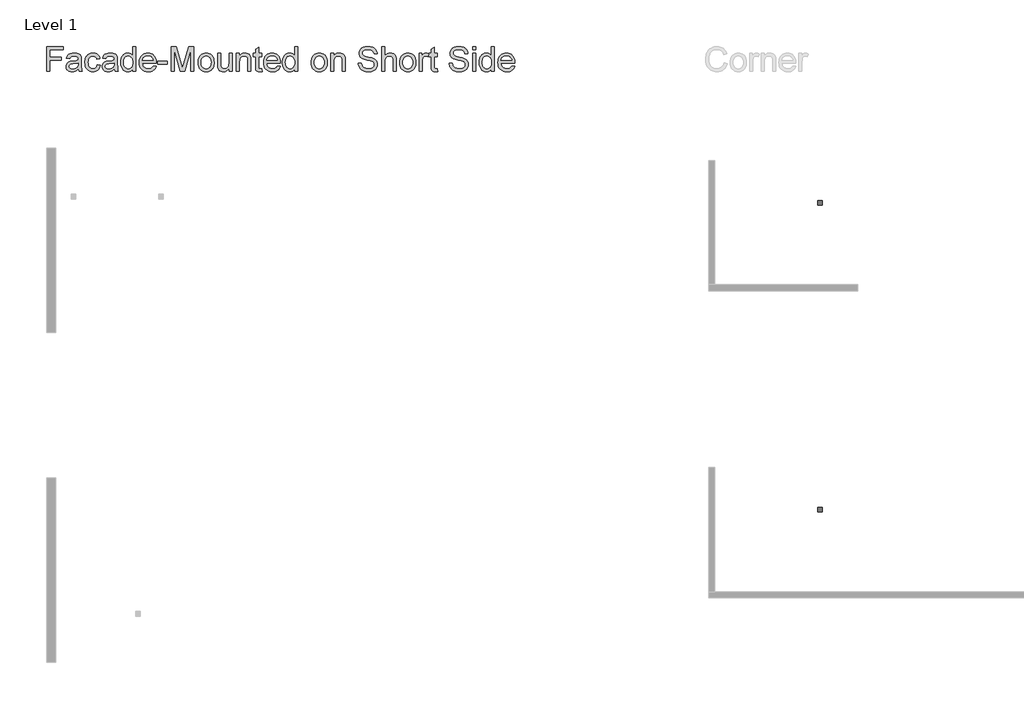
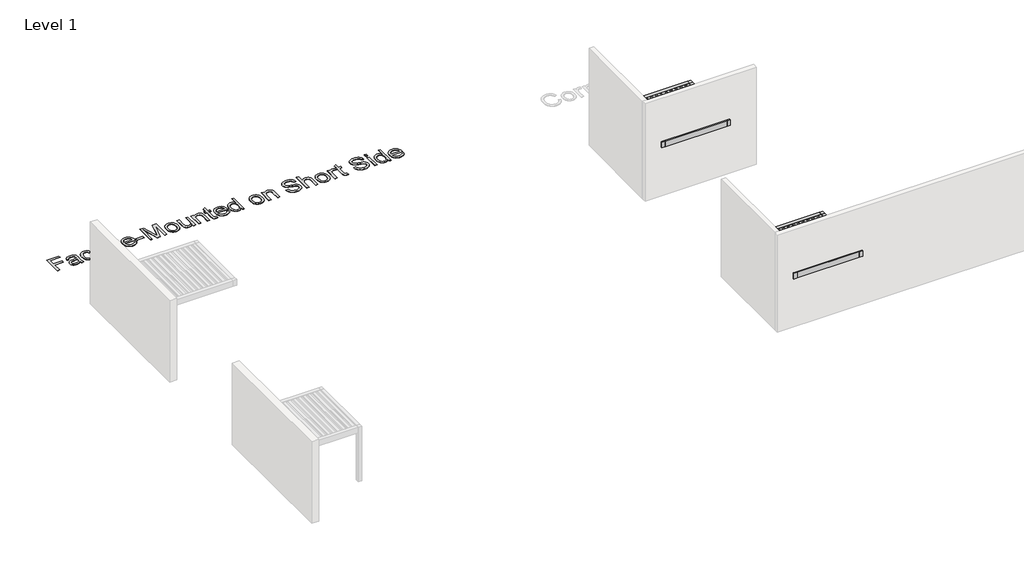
# One storey, part 13 of 69: 3 proxies.
"""IFC4 building model written with IfcOpenShell, lengths in millimetres."""

from ifc_helpers import new_model, si_unit, origin, origin_with_axes, place, context, project, spatial, polyline, outline, extrude, transform, mapped, element, save
from components import generic_models_1957e080

model = new_model("IFC4")

# Units and contexts
model_context = context("Model", 3, world=origin())
ifc_project = project(units=[si_unit("LENGTHUNIT", "METRE", prefix="MILLI")], contexts=[model_context])

# Site, building, storey
site = spatial("IfcSite", under=ifc_project)
building = spatial("IfcBuilding", under=site)
storey = spatial("IfcBuildingStorey", under=building, Name="Level 1", Elevation=0.0)

# Proxies
placement = place(None, origin())
generic_models_shape = generic_models_1957e080(model_context)
element("IfcBuildingElementProxy", 1, Name="Renson_Camargue_Facade-Mounted_Patio covers : Renson_Camargue_Facade-Mounted_Patio covers", ObjectType="Renson_Camargue_Facade-Mounted_Patio covers : Renson_Camargue_Facade-Mounted_Patio covers", at=placement, inside=storey, context=model_context, shape_type="MappedRepresentation", body=[
    mapped(generic_models_shape, transform((36325.3957203, -10875.9863343, 0.0), x_axis=(1.0, 0.0, 0.0), y_axis=(0.0, 1.0, 0.0), z_axis=(0.0, 0.0, 1.0))),
])
element("IfcBuildingElementProxy", 2, Name="Renson_Camargue_Facade-Mounted_Patio covers : Renson_Camargue_Facade-Mounted_Patio covers", ObjectType="Renson_Camargue_Facade-Mounted_Patio covers : Renson_Camargue_Facade-Mounted_Patio covers", at=placement, inside=storey, context=model_context, shape_type="MappedRepresentation", body=[
    mapped(generic_models_shape, transform((36325.3957203, -20875.9863343, 0.0), x_axis=(1.0, 0.0, 0.0), y_axis=(0.0, 1.0, 0.0), z_axis=(0.0, 0.0, 1.0))),
])
element("IfcBuildingElementProxy", 3, Name="800mm Arial", ObjectType="800mm Arial", at=placement, inside=storey, context=model_context, shape_type="SweptSolid", body=[
    extrude(outline(polyline([(12558.1433657, -5171.4138599), (12558.1433657, -4372.0251615), (13095.2326474, -4372.0251615), (13095.2326474, -4471.9487488), (12658.066953, -4471.9487488), (12658.066953, -4709.2672686), (13032.7804053, -4709.2672686), (13032.7804053, -4809.1908559), (12658.066953, -4809.1908559), (12658.066953, -5171.4138599), (12558.1433657, -5171.4138599)])), origin_with_axes(), (0.0, 0.0, 1.0), 5.0),
    extrude(outline(polyline([(13594.8505839, -5096.4711694), (13547.1087723, -5137.4066624), (13522.7072664, -5152.5684079), (13497.952027, -5164.1928194), (13446.2581595, -5178.9764361), (13390.9049809, -5183.9043083), (13346.4138573, -5180.9402663), (13307.3995025, -5172.0481404), (13273.8619167, -5157.2279307), (13245.8010997, -5136.479637), (13223.6439713, -5111.1206113), (13207.817451, -5082.4682057), (13198.3215388, -5050.5224202), (13195.1562347, -5015.2832547), (13199.9377345, -4973.8598535), (13214.2822338, -4936.2421359), (13236.408868, -4904.0401986), (13264.5367724, -4878.8641385), (13297.5925489, -4859.835721), (13334.5027998, -4846.0767114), (13420.9601224, -4831.0491406), (13523.1280871, -4815.2409169), (13594.2650941, -4796.7004075), (13594.8505839, -4774.4517963), (13593.1307077, -4750.2271571), (13587.9710791, -4729.8569922), (13579.3716981, -4713.3413016), (13567.3325647, -4700.6800854), (13546.5232825, -4688.0432645), (13521.1764546, -4679.0169639), (13491.2920809, -4673.6011835), (13456.8701616, -4671.7959234), (13397.3453684, -4676.6018186), (13374.3161041, -4682.6091876), (13355.7755947, -4691.0195042), (13340.540663, -4702.4914443), (13327.4281317, -4717.6836841), (13316.4380009, -4736.5962234), (13307.5702704, -4759.2290623), (13207.6466831, -4746.7386139), (13224.9918175, -4692.0929021), (13236.8662819, -4669.1612194), (13250.8753444, -4649.1569857), (13267.6227913, -4631.6776765), (13287.7124091, -4616.3207678), (13311.1441975, -4603.0862594), (13337.9181568, -4591.9741515), (13399.3213963, -4576.89779), (13469.7509365, -4571.8723361), (13537.3018186, -4576.3123002), (13590.8497371, -4589.6321924), (13631.2241358, -4609.6608216), (13659.2544585, -4634.2269965), (13677.8437587, -4664.5992783), (13689.8950897, -4702.0462281), (13693.5544008, -4736.5901245), (13694.7741712, -4789.479367), (13694.7741712, -4913.7983614), (13696.0427323, -5022.0895733), (13699.8484158, -5087.396078), (13707.3622012, -5130.307599), (13719.755068, -5171.4138599), (13619.8314807, -5171.4138599), (13603.8280937, -5136.6748002), (13594.8505839, -5096.4711694)]), holes=[polyline([(13594.8505839, -4896.6239948), (13527.7144237, -4913.2616624), (13433.6457341, -4927.2646261), (13381.8054941, -4934.9247839), (13347.6763196, -4943.4631764), (13325.3057313, -4954.5386912), (13308.7412499, -4969.810216), (13298.495179, -4988.1067713), (13295.079822, -5008.2573775), (13296.9399718, -5023.7850541), (13302.5204211, -5037.9709833), (13311.8211701, -5050.8151651), (13324.8422186, -5062.3175995), (13341.4615896, -5071.7952152), (13361.5573062, -5078.5649406), (13412.1777758, -5083.980721), (13465.8476714, -5078.0038463), (13490.34066, -5070.5327528), (13513.2723427, -5060.0732221), (13551.7195042, -5033.6529962), (13578.4568703, -5002.2073165), (13590.3130382, -4969.810216), (13594.2650941, -4924.922667), (13594.8505839, -4896.6239948)])]), origin_with_axes(), (0.0, 0.0, 1.0), 5.0),
    extrude(outline(polyline([(14206.882556, -4959.0762369), (14306.8061433, -4971.5666853), (14295.9379895, -5018.7169083), (14278.9465885, -5060.4391532), (14255.8319403, -5096.73342), (14226.5940449, -5127.5997088), (14192.4648705, -5152.2329711), (14154.6763849, -5169.8281584), (14113.2285884, -5180.3852708), (14068.1214807, -5183.9043083), (14012.0791319, -5178.9947326), (13961.8306922, -5164.2660056), (13917.3761617, -5139.7181272), (13878.7155403, -5105.3510976), (13847.4223319, -5061.8113948), (13825.0700402, -5009.7454973), (13811.6586652, -4949.153405), (13807.1882069, -4880.035118), (13809.0971475, -4834.0924677), (13814.8239693, -4791.1138593), (13824.3686723, -4751.0992929), (13837.7312565, -4714.0487684), (13855.0032047, -4680.7063458), (13876.2759996, -4651.816085), (13901.5496413, -4627.377986), (13930.8241298, -4607.3920488), (13962.7760142, -4591.8521745), (13996.0818437, -4580.7522643), (14030.7416183, -4574.0923181), (14066.7553379, -4571.8723361), (14111.0878914, -4574.921762), (14151.1878417, -4584.0700396), (14187.055189, -4599.317169), (14218.689933, -4620.6631502), (14245.5553751, -4647.620075), (14267.114816, -4679.7000353), (14283.368256, -4716.903031), (14294.3156949, -4759.2290623), (14194.3921076, -4771.7195107), (14186.5916762, -4748.379205), (14176.2663202, -4728.1249183), (14163.4160395, -4710.9566506), (14148.0408342, -4696.8744019), (14130.5310308, -4685.9025675), (14111.2769558, -4678.065543), (14090.2786092, -4673.3633283), (14067.5359909, -4671.7959234), (14033.5836832, -4674.8819424), (14002.9613485, -4684.1399994), (13975.6689868, -4699.5700943), (13951.7065982, -4721.1722273), (13932.1963715, -4749.4465041), (13918.2604952, -4784.8930305), (13909.8989694, -4827.5118066), (13907.1117942, -4877.3028324), (13909.8379809, -4927.844017), (13918.0165411, -4970.9568001), (13931.6474748, -5006.6411818), (13950.730782, -5034.897162), (13974.2174601, -5056.3712191), (14001.0585067, -5071.7098312), (14031.2539218, -5080.9129985), (14064.8037054, -5083.980721), (14091.8399152, -5082.0656815), (14116.5463637, -5076.3205632), (14138.9230508, -5066.7453659), (14158.9699766, -5053.3400897), (14176.1260466, -5035.9583622), (14189.8301665, -5014.4538109), (14200.0823363, -4988.8264358), (14206.882556, -4959.0762369)])), origin_with_axes(), (0.0, 0.0, 1.0), 5.0),
    extrude(outline(polyline([(14768.9527346, -5096.4711694), (14721.210923, -5137.4066624), (14696.809417, -5152.5684079), (14672.0541777, -5164.1928194), (14620.3603102, -5178.9764361), (14565.0071316, -5183.9043083), (14520.516008, -5180.9402663), (14481.5016532, -5172.0481404), (14447.9640674, -5157.2279307), (14419.9032504, -5136.479637), (14397.746122, -5111.1206113), (14381.9196016, -5082.4682057), (14372.4236894, -5050.5224202), (14369.2583854, -5015.2832547), (14374.0398852, -4973.8598535), (14388.3843845, -4936.2421359), (14410.5110187, -4904.0401986), (14438.638923, -4878.8641385), (14471.6946996, -4859.835721), (14508.6049505, -4846.0767114), (14595.0622731, -4831.0491406), (14697.2302378, -4815.2409169), (14768.3672448, -4796.7004075), (14768.9527346, -4774.4517963), (14767.2328584, -4750.2271571), (14762.0732298, -4729.8569922), (14753.4738488, -4713.3413016), (14741.4347154, -4700.6800854), (14720.6254332, -4688.0432645), (14695.2786053, -4679.0169639), (14665.3942316, -4673.6011835), (14630.9723123, -4671.7959234), (14571.447519, -4676.6018186), (14548.4182548, -4682.6091876), (14529.8777454, -4691.0195042), (14514.6428137, -4702.4914443), (14501.5302824, -4717.6836841), (14490.5401516, -4736.5962234), (14481.6724211, -4759.2290623), (14381.7488338, -4746.7386139), (14399.0939682, -4692.0929021), (14410.9684326, -4669.1612194), (14424.9774951, -4649.1569857), (14441.724942, -4631.6776765), (14461.8145597, -4616.3207678), (14485.2463482, -4603.0862594), (14512.0203075, -4591.9741515), (14573.423547, -4576.89779), (14643.8530872, -4571.8723361), (14711.4039693, -4576.3123002), (14764.9518878, -4589.6321924), (14805.3262865, -4609.6608216), (14833.3566092, -4634.2269965), (14851.9459094, -4664.5992783), (14863.9972404, -4702.0462281), (14867.6565515, -4736.5901245), (14868.8763218, -4789.479367), (14868.8763218, -4913.7983614), (14870.144883, -5022.0895733), (14873.9505665, -5087.396078), (14881.4643519, -5130.307599), (14893.8572187, -5171.4138599), (14793.9336314, -5171.4138599), (14777.9302444, -5136.6748002), (14768.9527346, -5096.4711694)]), holes=[polyline([(14768.9527346, -4896.6239948), (14701.8165743, -4913.2616624), (14607.7478847, -4927.2646261), (14555.9076448, -4934.9247839), (14521.7784703, -4943.4631764), (14499.407882, -4954.5386912), (14482.8434006, -4969.810216), (14472.5973297, -4988.1067713), (14469.1819727, -5008.2573775), (14471.0421225, -5023.7850541), (14476.6225718, -5037.9709833), (14485.9233208, -5050.8151651), (14498.9443693, -5062.3175995), (14515.5637403, -5071.7952152), (14535.6594569, -5078.5649406), (14586.2799265, -5083.980721), (14639.9498221, -5078.0038463), (14664.4428107, -5070.5327528), (14687.3744934, -5060.0732221), (14725.8216549, -5033.6529962), (14752.559021, -5002.2073165), (14764.4151888, -4969.810216), (14768.3672448, -4924.922667), (14768.9527346, -4896.6239948)])]), origin_with_axes(), (0.0, 0.0, 1.0), 5.0),
    extrude(outline(polyline([(15368.4942583, -5171.4138599), (15368.4942583, -5077.150007), (15338.597687, -5123.8550138), (15321.2799974, -5142.2034093), (15302.3827052, -5157.215733), (15281.9058104, -5168.8919847), (15259.849313, -5177.2321644), (15236.213213, -5182.2362723), (15210.9975104, -5183.9043083), (15178.01492, -5181.489163), (15146.3984725, -5174.2437271), (15116.1481677, -5162.1680006), (15087.2640058, -5145.2619835), (15060.6486167, -5124.0318805), (15037.2046305, -5098.9838963), (15016.9320473, -5070.1180309), (14999.8308669, -5037.4342843), (14986.2548229, -5001.5547394), (14976.5576486, -4963.101479), (14970.739344, -4922.0745032), (14968.7999091, -4878.473812), (14970.5868727, -4835.6720703), (14975.9477634, -4794.8951474), (14984.8825812, -4756.1430433), (14997.3913262, -4719.415758), (15013.4678995, -4685.7866893), (15033.1062021, -4656.3292353), (15056.3062342, -4631.0433959), (15083.0679958, -4609.9291711), (15112.4461647, -4593.2793058), (15143.4954191, -4581.3865449), (15176.2157588, -4574.2508883), (15210.6071839, -4571.8723361), (15235.7588485, -4573.5739158), (15259.4955796, -4578.6786547), (15281.817377, -4587.1865529), (15302.7242409, -4599.0976104), (15339.3661423, -4630.3969176), (15368.4942583, -4669.8442908), (15368.4942583, -4372.0251615), (15468.4178456, -4372.0251615), (15468.4178456, -5171.4138599), (15368.4942583, -5171.4138599)]), holes=[polyline([(15068.7234964, -4878.0834854), (15071.5411659, -4926.5388627), (15079.9941745, -4968.4684686), (15094.0825221, -5003.8723031), (15113.8062087, -5032.7503662), (15137.3599742, -5055.1636464), (15162.9385585, -5071.1731323), (15190.5419616, -5080.7788238), (15220.1701834, -5083.980721), (15249.9386789, -5080.9251962), (15277.377413, -5071.758622), (15302.4863857, -5056.4809984), (15325.265597, -5035.0923252), (15344.1781363, -5007.4218348), (15357.687093, -4973.2987592), (15365.792467, -4932.7230984), (15368.4942583, -4885.6948524), (15365.7436762, -4834.1351596), (15357.4919297, -4789.9184844), (15343.739019, -4753.0448266), (15324.484944, -4723.5141864), (15301.2056268, -4700.8874463), (15275.3769896, -4684.7254891), (15246.9990323, -4675.0283148), (15216.071755, -4671.7959234), (15185.8580434, -4674.9002389), (15158.2546403, -4684.2131856), (15133.2615458, -4699.7347633), (15110.8787598, -4721.4649722), (15092.4358321, -4749.8795225), (15079.2623123, -4785.4541249), (15071.3582004, -4828.1887792), (15068.7234964, -4878.0834854)])]), origin_with_axes(), (0.0, 0.0, 1.0), 5.0),
    extrude(outline(polyline([(16029.3170446, -4996.5475821), (16127.2889993, -5009.0380305), (16112.2675274, -5048.2780428), (16091.9888453, -5082.8585323), (16066.452953, -5112.779499), (16035.6598504, -5138.040943), (15999.9266779, -5158.1061653), (15959.5705758, -5172.438467), (15914.5915441, -5181.0378479), (15864.9895827, -5183.9043083), (15802.9886556, -5178.9581395), (15747.7452564, -5164.1196332), (15699.2593849, -5139.3887893), (15657.5310411, -5104.7656078), (15623.9751587, -5061.2137074), (15600.0066713, -5009.6967065), (15585.6255788, -4950.2146053), (15580.8318813, -4882.7674036), (15585.6743696, -4813.0331325), (15600.2018345, -4751.5689045), (15624.414276, -4698.3747194), (15640.152363, -4674.878893), (15658.3116941, -4653.4505773), (15699.9302585, -4617.7600968), (15747.306139, -4592.2668964), (15800.4393356, -4576.9709762), (15859.3298482, -4571.8723361), (15916.323618, -4576.9587785), (15967.8650142, -4592.2181056), (16013.954037, -4617.6503174), (16054.5906863, -4653.255414), (16087.762341, -4698.0819745), (16111.4563801, -4751.178578), (16125.6728036, -4812.5452244), (16130.4116114, -4882.1819138), (16129.8261216, -4909.1144432), (15680.7554686, -4909.1144432), (15686.5432789, -4948.9887361), (15698.0518122, -4983.9107612), (15715.2810684, -5013.8805188), (15738.2310476, -5038.8980087), (15765.6331886, -5058.6216954), (15796.2189302, -5072.7100429), (15829.9882724, -5081.1630515), (15866.9412152, -5083.980721), (15920.1232026, -5078.7601039), (15964.91317, -5063.0982525), (15984.1611461, -5051.10791), (16001.3111173, -5036.0193507), (16016.3630834, -5017.8325748), (16029.3170446, -4996.5475821)]), holes=[polyline([(15680.7554686, -4809.1908559), (16030.4880241, -4809.1908559), (16025.3527909, -4780.9165792), (16016.9729686, -4756.3991951), (16005.3485572, -4735.6387037), (15990.4795566, -4718.6351049), (15963.2298869, -4698.142963), (15932.2233245, -4683.5057188), (15897.4598695, -4674.7233722), (15858.9395217, -4671.7959234), (15823.8040367, -4674.1317836), (15791.5838028, -4681.1393643), (15762.2788201, -4692.8186654), (15735.8890885, -4709.169687), (15713.7441578, -4729.4361714), (15697.1735775, -4752.861861), (15686.1773478, -4779.4467559), (15680.7554686, -4809.1908559)])]), origin_with_axes(), (0.0, 0.0, 1.0), 5.0),
    extrude(outline(polyline([(16180.3734051, -4934.09534), (16180.3734051, -4834.1717528), (16492.6346154, -4834.1717528), (16492.6346154, -4934.09534), (16180.3734051, -4934.09534)])), origin_with_axes(), (0.0, 0.0, 1.0), 5.0),
    extrude(outline(polyline([(16617.5390995, -5171.4138599), (16617.5390995, -4372.0251615), (16789.4779284, -4372.0251615), (16953.0247373, -4935.4614828), (16986.0073276, -5053.1449265), (17021.7222035, -4925.70332), (17182.5367268, -4372.0251615), (17354.4755558, -4372.0251615), (17354.4755558, -5171.4138599), (17254.5519685, -5171.4138599), (17254.5519685, -4471.9487488), (17053.7289776, -5171.4138599), (16918.2856776, -5171.4138599), (16717.4626868, -4471.9487488), (16717.4626868, -5171.4138599), (16617.5390995, -5171.4138599)])), origin_with_axes(), (0.0, 0.0, 1.0), 5.0),
    extrude(outline(polyline([(17491.8704883, -4877.8883222), (17497.2740709, -4801.8600361), (17504.0285493, -4767.7888007), (17513.4848189, -4736.3461705), (17525.6428799, -4707.5321453), (17540.5027322, -4681.3467253), (17558.0643759, -4657.7899103), (17578.3278109, -4636.8617005), (17616.4090413, -4608.4288536), (17658.4423276, -4588.1196772), (17704.4276699, -4575.9341714), (17754.3650682, -4571.8723361), (17809.4925893, -4576.8185049), (17859.3385047, -4591.6570112), (17903.9028146, -4616.3878551), (17943.1855188, -4651.0110366), (17975.2471825, -4694.3555761), (17998.1483709, -4745.250494), (18011.8890839, -4803.6957905), (18016.4693216, -4869.6914654), (18014.4445028, -4923.1783954), (18008.3700464, -4970.6396598), (17998.2459525, -5012.0752587), (17984.072221, -5047.485192), (17966.0257186, -5078.0709336), (17944.2833121, -5105.0339573), (17918.8450014, -5128.374263), (17889.7107865, -5148.0918507), (17858.0150539, -5163.7598009), (17824.89219, -5174.9511939), (17790.3421947, -5181.6660297), (17754.3650682, -5183.9043083), (17698.4324987, -5178.9764361), (17648.1230705, -5164.1928194), (17603.4367836, -5139.5534583), (17564.373638, -5105.0583527), (17532.65351, -5061.2929924), (17509.9962757, -5008.8428673), (17496.4019351, -4947.7079772), (17491.8704883, -4877.8883222)]), holes=[polyline([(17591.7940756, -4877.6931589), (17594.6849313, -4926.1607339), (17603.3574985, -4968.1269329), (17617.8117772, -5003.5917559), (17638.0477673, -5032.5552029), (17662.6627331, -5055.0538671), (17690.2539384, -5071.1243415), (17720.8213835, -5080.7666261), (17754.3650682, -5083.980721), (17787.737985, -5080.7483295), (17818.183453, -5071.0511552), (17845.7014722, -5054.8891981), (17870.2920425, -5032.262458), (17890.5280327, -5003.012365), (17904.9823113, -4966.9803488), (17913.6548785, -4924.1664094), (17916.5457343, -4874.5705468), (17913.636582, -4827.6398825), (17904.9091251, -4786.7714768), (17890.3633637, -4751.9653298), (17869.9992976, -4723.2214415), (17845.3172445, -4700.7227773), (17817.8175219, -4684.6523029), (17787.5001298, -4675.0100183), (17754.3650682, -4671.7959234), (17720.8213835, -4674.9978206), (17690.2539384, -4684.6035121), (17662.6627331, -4700.612998), (17638.0477673, -4723.0262782), (17617.8117772, -4751.9043413), (17603.3574985, -4787.3081758), (17594.6849313, -4829.2377817), (17591.7940756, -4877.6931589)])]), origin_with_axes(), (0.0, 0.0, 1.0), 5.0),
    extrude(outline(polyline([(18503.5968096, -5171.4138599), (18503.5968096, -5070.5144563), (18486.2638729, -5097.0902028), (18467.4428164, -5120.1225165), (18447.13364, -5139.6113973), (18425.3363438, -5155.5568453), (18402.0509278, -5167.9588603), (18377.2773919, -5176.8174425), (18351.0157362, -5182.1325918), (18323.2659607, -5183.9043083), (18274.5971236, -5178.9276452), (18229.2948527, -5163.9976561), (18191.2868085, -5141.5538816), (18164.5006516, -5114.0358625), (18146.4724458, -5080.6141548), (18134.738255, -5040.4593148), (18130.3470817, -5002.5976431), (18128.8833573, -4947.5616047), (18128.8833573, -4584.3627845), (18228.8069446, -4584.3627845), (18228.8069446, -4900.5272599), (18230.3194598, -4963.760155), (18234.8570055, -5002.4024798), (18240.8399791, -5020.4123891), (18249.4210635, -5036.3852818), (18260.6002588, -5050.3211581), (18274.3775649, -5062.2200179), (18290.33826, -5071.7403255), (18308.0676221, -5078.5405452), (18348.8323473, -5083.980721), (18391.9390315, -5078.4185682), (18432.2646394, -5061.7321098), (18450.3111418, -5049.6014936), (18465.5155792, -5035.4582564), (18477.8779517, -5019.302398), (18487.3982593, -5001.1339186), (18499.5471721, -4954.1239692), (18503.5968096, -4889.7932808), (18503.5968096, -4584.3627845), (18603.5203969, -4584.3627845), (18603.5203969, -5171.4138599), (18503.5968096, -5171.4138599)])), origin_with_axes(), (0.0, 0.0, 1.0), 5.0),
    extrude(outline(polyline([(18740.9153294, -5171.4138599), (18740.9153294, -4584.3627845), (18840.8389167, -4584.3627845), (18840.8389167, -4666.3313522), (18857.3241131, -4644.1925203), (18875.553581, -4625.0055327), (18895.5273205, -4608.7703893), (18917.2453316, -4595.4870901), (18940.7076144, -4585.1556352), (18965.9141687, -4577.7760246), (19021.5600922, -4571.8723361), (19070.814419, -4576.6294405), (19115.9215267, -4590.9007536), (19153.5392444, -4612.9054108), (19180.3254013, -4640.8625473), (19198.4999796, -4674.6989768), (19210.2829612, -4714.3415133), (19214.2350171, -4752.2519759), (19215.5523691, -4810.9473252), (19215.5523691, -5171.4138599), (19115.6287818, -5171.4138599), (19115.6287818, -4824.4135899), (19112.7501238, -4772.7441178), (19104.1141497, -4736.0046348), (19088.1839489, -4709.6819906), (19063.4226107, -4689.2630349), (19031.6841861, -4676.1627013), (18994.8227261, -4671.7959234), (18964.4809385, -4674.2476618), (18936.2981445, -4681.602877), (18910.2743441, -4693.8615691), (18886.4095371, -4711.0237379), (18866.4723907, -4735.0410162), (18852.2315718, -4767.8650364), (18843.6870805, -4809.4957985), (18840.8389167, -4859.9333026), (18840.8389167, -5171.4138599), (18740.9153294, -5171.4138599)])), origin_with_axes(), (0.0, 0.0, 1.0), 5.0),
    extrude(outline(polyline([(19565.2849246, -5088.0791494), (19577.775373, -5174.3413087), (19538.2060228, -5181.5135584), (19503.0278458, -5183.9043083), (19455.0664755, -5179.7570891), (19419.3028088, -5167.3154315), (19394.0291671, -5148.1406415), (19377.5378719, -5123.7940253), (19368.4627805, -5081.9802976), (19365.43775, -5010.4041733), (19365.43775, -4684.2863718), (19290.4950596, -4684.2863718), (19290.4950596, -4584.3627845), (19365.43775, -4584.3627845), (19365.43775, -4441.6984441), (19465.3613373, -4382.9543039), (19465.3613373, -4584.3627845), (19565.2849246, -4584.3627845), (19565.2849246, -4684.2863718), (19465.3613373, -4684.2863718), (19465.3613373, -5007.4767245), (19466.6786893, -5040.3617332), (19470.6307452, -5058.9998242), (19477.5346454, -5069.3190813), (19487.7075302, -5077.2475886), (19502.1252157, -5082.2974379), (19521.7635184, -5083.980721), (19565.2849246, -5088.0791494)])), origin_with_axes(), (0.0, 0.0, 1.0), 5.0),
    extrude(outline(polyline([(20076.2223299, -4996.5475821), (20174.1942847, -5009.0380305), (20159.1728128, -5048.2780428), (20138.8941307, -5082.8585323), (20113.3582383, -5112.779499), (20082.5651358, -5138.040943), (20046.8319633, -5158.1061653), (20006.4758612, -5172.438467), (19961.4968294, -5181.0378479), (19911.894868, -5183.9043083), (19849.893941, -5178.9581395), (19794.6505417, -5164.1196332), (19746.1646702, -5139.3887893), (19704.4363264, -5104.7656078), (19670.880444, -5061.2137074), (19646.9119566, -5009.6967065), (19632.5308642, -4950.2146053), (19627.7371667, -4882.7674036), (19632.579655, -4813.0331325), (19647.1071199, -4751.5689045), (19671.3195614, -4698.3747194), (19687.0576483, -4674.878893), (19705.2169795, -4653.4505773), (19746.8355439, -4617.7600968), (19794.2114244, -4592.2668964), (19847.344621, -4576.9709762), (19906.2351336, -4571.8723361), (19963.2289033, -4576.9587785), (20014.7702996, -4592.2181056), (20060.8593224, -4617.6503174), (20101.4959717, -4653.255414), (20134.6676264, -4698.0819745), (20158.3616655, -4751.178578), (20172.578089, -4812.5452244), (20177.3168968, -4882.1819138), (20176.731407, -4909.1144432), (19727.660754, -4909.1144432), (19733.4485643, -4948.9887361), (19744.9570976, -4983.9107612), (19762.1863538, -5013.8805188), (19785.136333, -5038.8980087), (19812.538474, -5058.6216954), (19843.1242155, -5072.7100429), (19876.8935578, -5081.1630515), (19913.8465006, -5083.980721), (19967.028488, -5078.7601039), (20011.8184553, -5063.0982525), (20031.0664315, -5051.10791), (20048.2164026, -5036.0193507), (20063.2683688, -5017.8325748), (20076.2223299, -4996.5475821)]), holes=[polyline([(19727.660754, -4809.1908559), (20077.3933095, -4809.1908559), (20072.2580763, -4780.9165792), (20063.878254, -4756.3991951), (20052.2538425, -4735.6387037), (20037.3848419, -4718.6351049), (20010.1351722, -4698.142963), (19979.1286099, -4683.5057188), (19944.3651548, -4674.7233722), (19905.8448071, -4671.7959234), (19870.7093221, -4674.1317836), (19838.4890882, -4681.1393643), (19809.1841055, -4692.8186654), (19782.7943739, -4709.169687), (19760.6494431, -4729.4361714), (19744.0788629, -4752.861861), (19733.0826332, -4779.4467559), (19727.660754, -4809.1908559)])]), origin_with_axes(), (0.0, 0.0, 1.0), 5.0),
    extrude(outline(polyline([(20639.463488, -5171.4138599), (20639.463488, -5077.150007), (20609.5669167, -5123.8550138), (20592.2492271, -5142.2034093), (20573.3519349, -5157.215733), (20552.8750401, -5168.8919847), (20530.8185427, -5177.2321644), (20507.1824427, -5182.2362723), (20481.9667401, -5183.9043083), (20448.9841497, -5181.489163), (20417.3677022, -5174.2437271), (20387.1173974, -5162.1680006), (20358.2332355, -5145.2619835), (20331.6178464, -5124.0318805), (20308.1738602, -5098.9838963), (20287.901277, -5070.1180309), (20270.8000966, -5037.4342843), (20257.2240526, -5001.5547394), (20247.5268783, -4963.101479), (20241.7085737, -4922.0745032), (20239.7691388, -4878.473812), (20241.5561024, -4835.6720703), (20246.9169931, -4794.8951474), (20255.8518109, -4756.1430433), (20268.3605559, -4719.415758), (20284.4371291, -4685.7866893), (20304.0754318, -4656.3292353), (20327.2754639, -4631.0433959), (20354.0372255, -4609.9291711), (20383.4153944, -4593.2793058), (20414.4646487, -4581.3865449), (20447.1849885, -4574.2508883), (20481.5764136, -4571.8723361), (20506.7280782, -4573.5739158), (20530.4648093, -4578.6786547), (20552.7866067, -4587.1865529), (20573.6934706, -4599.0976104), (20610.335372, -4630.3969176), (20639.463488, -4669.8442908), (20639.463488, -4372.0251615), (20739.3870753, -4372.0251615), (20739.3870753, -5171.4138599), (20639.463488, -5171.4138599)]), holes=[polyline([(20339.6927261, -4878.0834854), (20342.5103956, -4926.5388627), (20350.9634042, -4968.4684686), (20365.0517518, -5003.8723031), (20384.7754384, -5032.7503662), (20408.3292039, -5055.1636464), (20433.9077882, -5071.1731323), (20461.5111912, -5080.7788238), (20491.1394131, -5083.980721), (20520.9079086, -5080.9251962), (20548.3466427, -5071.758622), (20573.4556154, -5056.4809984), (20596.2348267, -5035.0923252), (20615.147366, -5007.4218348), (20628.6563227, -4973.2987592), (20636.7616967, -4932.7230984), (20639.463488, -4885.6948524), (20636.7129059, -4834.1351596), (20628.4611594, -4789.9184844), (20614.7082487, -4753.0448266), (20595.4541737, -4723.5141864), (20572.1748565, -4700.8874463), (20546.3462193, -4684.7254891), (20517.968262, -4675.0283148), (20487.0409847, -4671.7959234), (20456.8272731, -4674.9002389), (20429.22387, -4684.2131856), (20404.2307755, -4699.7347633), (20381.8479895, -4721.4649722), (20363.4050618, -4749.8795225), (20350.231542, -4785.4541249), (20342.3274301, -4828.1887792), (20339.6927261, -4878.0834854)])]), origin_with_axes(), (0.0, 0.0, 1.0), 5.0),
    extrude(outline(polyline([(21176.5527697, -4877.8883222), (21181.9563524, -4801.8600361), (21188.7108307, -4767.7888007), (21198.1671004, -4736.3461705), (21210.3251613, -4707.5321453), (21225.1850137, -4681.3467253), (21242.7466573, -4657.7899103), (21263.0100923, -4636.8617005), (21301.0913227, -4608.4288536), (21343.1246091, -4588.1196772), (21389.1099514, -4575.9341714), (21439.0473496, -4571.8723361), (21494.1748707, -4576.8185049), (21544.0207862, -4591.6570112), (21588.585096, -4616.3878551), (21627.8678002, -4651.0110366), (21659.9294639, -4694.3555761), (21682.8306523, -4745.250494), (21696.5713653, -4803.6957905), (21701.151603, -4869.6914654), (21699.1267842, -4923.1783954), (21693.0523278, -4970.6396598), (21682.9282339, -5012.0752587), (21668.7545024, -5047.485192), (21650.7080001, -5078.0709336), (21628.9655935, -5105.0339573), (21603.5272828, -5128.374263), (21574.3930679, -5148.0918507), (21542.6973353, -5163.7598009), (21509.5744714, -5174.9511939), (21475.0244762, -5181.6660297), (21439.0473496, -5183.9043083), (21383.1147801, -5178.9764361), (21332.8053519, -5164.1928194), (21288.119065, -5139.5534583), (21249.0559195, -5105.0583527), (21217.3357914, -5061.2929924), (21194.6785571, -5008.8428673), (21181.0842166, -4947.7079772), (21176.5527697, -4877.8883222)]), holes=[polyline([(21276.476357, -4877.6931589), (21279.3672127, -4926.1607339), (21288.0397799, -4968.1269329), (21302.4940586, -5003.5917559), (21322.7300488, -5032.5552029), (21347.3450145, -5055.0538671), (21374.9362199, -5071.1243415), (21405.5036649, -5080.7666261), (21439.0473496, -5083.980721), (21472.4202665, -5080.7483295), (21502.8657345, -5071.0511552), (21530.3837536, -5054.8891981), (21554.9743239, -5032.262458), (21575.2103141, -5003.012365), (21589.6645928, -4966.9803488), (21598.33716, -4924.1664094), (21601.2280157, -4874.5705468), (21598.3188634, -4827.6398825), (21589.5914065, -4786.7714768), (21575.0456451, -4751.9653298), (21554.681579, -4723.2214415), (21529.999526, -4700.7227773), (21502.4998034, -4684.6523029), (21472.1824112, -4675.0100183), (21439.0473496, -4671.7959234), (21405.5036649, -4674.9978206), (21374.9362199, -4684.6035121), (21347.3450145, -4700.612998), (21322.7300488, -4723.0262782), (21302.4940586, -4751.9043413), (21288.0397799, -4787.3081758), (21279.3672127, -4829.2377817), (21276.476357, -4877.6931589)])]), origin_with_axes(), (0.0, 0.0, 1.0), 5.0),
    extrude(outline(polyline([(21813.5656387, -5171.4138599), (21813.5656387, -4584.3627845), (21913.489226, -4584.3627845), (21913.489226, -4666.3313522), (21929.9744223, -4644.1925203), (21948.2038902, -4625.0055327), (21968.1776298, -4608.7703893), (21989.8956409, -4595.4870901), (22013.3579236, -4585.1556352), (22038.564478, -4577.7760246), (22094.2104014, -4571.8723361), (22143.4647283, -4576.6294405), (22188.5718359, -4590.9007536), (22226.1895536, -4612.9054108), (22252.9757105, -4640.8625473), (22271.1502888, -4674.6989768), (22282.9332704, -4714.3415133), (22286.8853264, -4752.2519759), (22288.2026783, -4810.9473252), (22288.2026783, -5171.4138599), (22188.279091, -5171.4138599), (22188.279091, -4824.4135899), (22185.400433, -4772.7441178), (22176.7644589, -4736.0046348), (22160.8342581, -4709.6819906), (22136.0729199, -4689.2630349), (22104.3344954, -4676.1627013), (22067.4730353, -4671.7959234), (22037.1312478, -4674.2476618), (22008.9484538, -4681.602877), (21982.9246533, -4693.8615691), (21959.0598464, -4711.0237379), (21939.1226999, -4735.0410162), (21924.8818811, -4767.8650364), (21916.3373898, -4809.4957985), (21913.489226, -4859.9333026), (21913.489226, -5171.4138599), (21813.5656387, -5171.4138599)])), origin_with_axes(), (0.0, 0.0, 1.0), 5.0),
    extrude(outline(polyline([(22712.8779243, -4896.6239948), (22812.8015116, -4896.6239948), (22824.2673529, -4952.074755), (22833.4766191, -4975.7200033), (22845.0034489, -4996.6451637), (22859.4333322, -5015.271057), (22877.3517587, -5032.018504), (22898.7587284, -5046.8875046), (22923.6542413, -5059.8780588), (22951.1234696, -5070.4229735), (22980.2515856, -5077.9550554), (23043.4844807, -5083.980721), (23099.1547996, -5079.4187799), (23147.8968229, -5065.7329565), (23187.3929869, -5044.069835), (23202.8047853, -5030.6767566), (23215.325728, -5015.5759996), (23231.9390002, -4982.8617587), (23237.4767576, -4948.537421), (23233.3295384, -4915.0913179), (23220.8878808, -4886.1827606), (23210.4222512, -4873.3568753), (23195.6142391, -4861.5190041), (23152.9710676, -4840.8073035), (23100.2038021, -4825.1210567), (23007.4768599, -4802.6528868), (22911.9688413, -4777.4036405), (22850.8583466, -4753.3741646), (22824.1758702, -4737.4561615), (22801.1161116, -4719.7572937), (22781.6790711, -4700.2775611), (22765.8647485, -4679.0169639), (22753.6121553, -4656.1950606), (22744.860303, -4632.0314099), (22739.6091916, -4606.5260118), (22737.8588212, -4579.6788664), (22740.0239135, -4549.9225686), (22746.5191907, -4521.1542848), (22757.3446525, -4493.3740151), (22772.5002992, -4466.5817593), (22791.8153627, -4441.8692119), (22815.1190753, -4420.3280675), (22842.4114369, -4401.958326), (22873.6924476, -4386.7599874), (22907.907006, -4374.8489299), (22944.0000108, -4366.3410317), (22981.9714618, -4361.2362928), (23021.8213593, -4359.5347131), (23065.2939746, -4361.3155778), (23106.131886, -4366.658172), (23144.3350935, -4375.5624955), (23179.903597, -4388.0285485), (23212.1787205, -4403.9465517), (23240.5017881, -4423.2067255), (23264.8727997, -4445.8090702), (23285.2917554, -4471.7535856), (23301.6000851, -4500.2840141), (23313.6392184, -4530.6440982), (23321.4091556, -4562.8338378), (23324.9098965, -4596.8532329), (23224.9863092, -4596.8532329), (23218.3019677, -4564.9684359), (23206.6409631, -4537.2308581), (23190.0032955, -4513.6404995), (23168.3889648, -4494.19736), (23141.3954469, -4478.9990215), (23108.6202176, -4468.1430653), (23070.0632767, -4461.6294916), (23025.7246244, -4459.4583004), (22979.9710385, -4461.6050962), (22940.8773987, -4468.0454837), (22908.443705, -4478.7794628), (22882.6699574, -4493.8070335), (22863.0316547, -4511.8718325), (22849.0042957, -4531.7174961), (22840.5878803, -4553.3440245), (22837.7824084, -4576.7514175), (22839.7706341, -4596.889826), (22845.7353111, -4615.1497882), (22855.6764395, -4631.5313041), (22869.5940192, -4646.0343736), (22891.5010948, -4659.7689877), (22925.9962004, -4673.6499743), (23032.7505016, -4701.8510649), (23142.9201599, -4728.6372218), (23209.5684119, -4752.0080218), (23240.2029444, -4769.072609), (23266.5316874, -4788.2595967), (23288.5546411, -4809.5689847), (23306.2718055, -4833.0007732), (23319.8905415, -4858.4329851), (23329.6182101, -4885.7436433), (23335.4548112, -4914.9327478), (23337.4003449, -4946.0002987), (23335.1620663, -4977.256914), (23328.4472305, -5007.5987015), (23317.2558375, -5037.0256613), (23301.5878874, -5065.5377933), (23281.7178283, -5092.0312053), (23257.9201087, -5115.4020053), (23230.1947286, -5135.6501931), (23198.541688, -5152.7757689), (23163.8819134, -5166.3945049), (23127.1363315, -5176.1221734), (23088.3049423, -5181.9587746), (23047.3877459, -5183.9043083), (22996.2732692, -5181.8063033), (22949.4889773, -5175.5122882), (22907.0348702, -5165.0222632), (22868.9109478, -5150.3362282), (22834.8854539, -5131.4297877), (22804.7266319, -5108.2785464), (22778.4344819, -5080.8825043), (22756.009004, -5049.2416613), (22737.9442051, -5014.3806247), (22724.7340922, -4977.3240013), (22716.3786652, -4938.0717914), (22712.8779243, -4896.6239948)])), origin_with_axes(), (0.0, 0.0, 1.0), 5.0),
    extrude(outline(polyline([(23474.7952774, -5171.4138599), (23474.7952774, -4372.0251615), (23574.7188647, -4372.0251615), (23574.7188647, -4665.9410257), (23611.4217546, -4624.785974), (23652.6377949, -4595.3895085), (23698.3669854, -4577.7516292), (23748.6093262, -4571.8723361), (23779.8476449, -4573.4763341), (23808.9635633, -4578.2883282), (23835.9570812, -4586.3083182), (23860.8281987, -4597.5363043), (23882.9426352, -4611.5941576), (23901.6661101, -4628.1037494), (23916.9986234, -4647.0650795), (23928.9401752, -4668.478148), (23937.9054872, -4693.6664058), (23944.3092816, -4723.9533037), (23949.4323171, -4799.8230196), (23949.4323171, -5171.4138599), (23849.5087298, -5171.4138599), (23849.5087298, -4810.1666722), (23847.5205041, -4776.4278243), (23841.5558271, -4747.6168485), (23831.6146987, -4723.733745), (23817.697119, -4704.7785137), (23800.1324259, -4690.3486305), (23779.2499575, -4680.041571), (23755.0497137, -4673.8573353), (23727.5316945, -4671.7959234), (23685.3032449, -4677.3580762), (23645.6607084, -4694.0445346), (23627.864259, -4706.1568542), (23612.8244905, -4720.2452018), (23600.5414031, -4736.3095774), (23591.0149966, -4754.3499809), (23578.7928977, -4799.6766472), (23574.7188647, -4859.5429761), (23574.7188647, -5171.4138599), (23474.7952774, -5171.4138599)])), origin_with_axes(), (0.0, 0.0, 1.0), 5.0),
    extrude(outline(polyline([(24061.8463528, -4877.8883222), (24067.2499354, -4801.8600361), (24074.0044138, -4767.7888007), (24083.4606834, -4736.3461705), (24095.6187444, -4707.5321453), (24110.4785967, -4681.3467253), (24128.0402404, -4657.7899103), (24148.3036754, -4636.8617005), (24186.3849058, -4608.4288536), (24228.4181921, -4588.1196772), (24274.4035344, -4575.9341714), (24324.3409327, -4571.8723361), (24379.4684538, -4576.8185049), (24429.3143692, -4591.6570112), (24473.8786791, -4616.3878551), (24513.1613833, -4651.0110366), (24545.223047, -4694.3555761), (24568.1242354, -4745.250494), (24581.8649484, -4803.6957905), (24586.4451861, -4869.6914654), (24584.4203673, -4923.1783954), (24578.3459109, -4970.6396598), (24568.221817, -5012.0752587), (24554.0480855, -5047.485192), (24536.0015831, -5078.0709336), (24514.2591766, -5105.0339573), (24488.8208659, -5128.374263), (24459.686651, -5148.0918507), (24427.9909184, -5163.7598009), (24394.8680545, -5174.9511939), (24360.3180592, -5181.6660297), (24324.3409327, -5183.9043083), (24268.4083632, -5178.9764361), (24218.098935, -5164.1928194), (24173.4126481, -5139.5534583), (24134.3495025, -5105.0583527), (24102.6293745, -5061.2929924), (24079.9721402, -5008.8428673), (24066.3777996, -4947.7079772), (24061.8463528, -4877.8883222)]), holes=[polyline([(24161.7699401, -4877.6931589), (24164.6607958, -4926.1607339), (24173.333363, -4968.1269329), (24187.7876417, -5003.5917559), (24208.0236318, -5032.5552029), (24232.6385976, -5055.0538671), (24260.2298029, -5071.1243415), (24290.797248, -5080.7666261), (24324.3409327, -5083.980721), (24357.7138495, -5080.7483295), (24388.1593175, -5071.0511552), (24415.6773367, -5054.8891981), (24440.267907, -5032.262458), (24460.5038972, -5003.012365), (24474.9581758, -4966.9803488), (24483.630743, -4924.1664094), (24486.5215988, -4874.5705468), (24483.6124465, -4827.6398825), (24474.8849896, -4786.7714768), (24460.3392282, -4751.9653298), (24439.9751621, -4723.2214415), (24415.293109, -4700.7227773), (24387.7933864, -4684.6523029), (24357.4759943, -4675.0100183), (24324.3409327, -4671.7959234), (24290.797248, -4674.9978206), (24260.2298029, -4684.6035121), (24232.6385976, -4700.612998), (24208.0236318, -4723.0262782), (24187.7876417, -4751.9043413), (24173.333363, -4787.3081758), (24164.6607958, -4829.2377817), (24161.7699401, -4877.6931589)])]), origin_with_axes(), (0.0, 0.0, 1.0), 5.0),
    extrude(outline(polyline([(24698.8592218, -5171.4138599), (24698.8592218, -4584.3627845), (24786.2923607, -4584.3627845), (24786.2923607, -4671.2104336), (24818.5918796, -4620.8583135), (24833.7902182, -4603.4399928), (24848.3542762, -4591.1934985), (24878.2142544, -4576.7026267), (24910.8065183, -4571.8723361), (24935.5922518, -4573.7995733), (24960.5731486, -4579.5812847), (24985.7492087, -4589.2174705), (25011.1204321, -4602.7081306), (24977.7475152, -4692.2880653), (24942.6181291, -4676.9189589), (24907.4887429, -4671.7959234), (24877.6531601, -4676.7237956), (24850.9889802, -4691.5074123), (24829.4478357, -4715.0245847), (24814.9813593, -4746.1531241), (24802.8324466, -4801.9698154), (24798.7828091, -4862.8607514), (24798.7828091, -5171.4138599), (24698.8592218, -5171.4138599)])), origin_with_axes(), (0.0, 0.0, 1.0), 5.0),
    extrude(outline(polyline([(25285.9102971, -5088.0791494), (25298.4007455, -5174.3413087), (25258.8313953, -5181.5135584), (25223.6532183, -5183.9043083), (25175.691848, -5179.7570891), (25139.9281813, -5167.3154315), (25114.6545396, -5148.1406415), (25098.1632444, -5123.7940253), (25089.088153, -5081.9802976), (25086.0631225, -5010.4041733), (25086.0631225, -4684.2863718), (25011.1204321, -4684.2863718), (25011.1204321, -4584.3627845), (25086.0631225, -4584.3627845), (25086.0631225, -4441.6984441), (25185.9867098, -4382.9543039), (25185.9867098, -4584.3627845), (25285.9102971, -4584.3627845), (25285.9102971, -4684.2863718), (25185.9867098, -4684.2863718), (25185.9867098, -5007.4767245), (25187.3040618, -5040.3617332), (25191.2561177, -5058.9998242), (25198.1600179, -5069.3190813), (25208.3329027, -5077.2475886), (25222.7505883, -5082.2974379), (25242.3888909, -5083.980721), (25285.9102971, -5088.0791494)])), origin_with_axes(), (0.0, 0.0, 1.0), 5.0),
    extrude(outline(polyline([(25673.1141979, -4896.6239948), (25773.0377852, -4896.6239948), (25784.5036265, -4952.074755), (25793.7128926, -4975.7200033), (25805.2397225, -4996.6451637), (25819.6696058, -5015.271057), (25837.5880322, -5032.018504), (25858.9950019, -5046.8875046), (25883.8905148, -5059.8780588), (25911.3597432, -5070.4229735), (25940.4878592, -5077.9550554), (26003.7207543, -5083.980721), (26059.3910732, -5079.4187799), (26108.1330965, -5065.7329565), (26147.6292605, -5044.069835), (26163.0410589, -5030.6767566), (26175.5620016, -5015.5759996), (26192.1752738, -4982.8617587), (26197.7130312, -4948.537421), (26193.565812, -4915.0913179), (26181.1241544, -4886.1827606), (26170.6585247, -4873.3568753), (26155.8505127, -4861.5190041), (26113.2073411, -4840.8073035), (26060.4400757, -4825.1210567), (25967.7131335, -4802.6528868), (25872.2051148, -4777.4036405), (25811.0946202, -4753.3741646), (25784.4121437, -4737.4561615), (25761.3523852, -4719.7572937), (25741.9153446, -4700.2775611), (25726.101022, -4679.0169639), (25713.8484288, -4656.1950606), (25705.0965765, -4632.0314099), (25699.8454652, -4606.5260118), (25698.0950947, -4579.6788664), (25700.2601871, -4549.9225686), (25706.7554642, -4521.1542848), (25717.5809261, -4493.3740151), (25732.7365727, -4466.5817593), (25752.0516363, -4441.8692119), (25775.3553488, -4420.3280675), (25802.6477105, -4401.958326), (25833.9287212, -4386.7599874), (25868.1432796, -4374.8489299), (25904.2362843, -4366.3410317), (25942.2077354, -4361.2362928), (25982.0576328, -4359.5347131), (26025.5302482, -4361.3155778), (26066.3681596, -4366.658172), (26104.571367, -4375.5624955), (26140.1398705, -4388.0285485), (26172.414994, -4403.9465517), (26200.7380616, -4423.2067255), (26225.1090733, -4445.8090702), (26245.528029, -4471.7535856), (26261.8363586, -4500.2840141), (26273.875492, -4530.6440982), (26281.6454291, -4562.8338378), (26285.14617, -4596.8532329), (26185.2225828, -4596.8532329), (26178.5382412, -4564.9684359), (26166.8772366, -4537.2308581), (26150.239569, -4513.6404995), (26128.6252384, -4494.19736), (26101.6317205, -4478.9990215), (26068.8564911, -4468.1430653), (26030.2995503, -4461.6294916), (25985.9608979, -4459.4583004), (25940.207312, -4461.6050962), (25901.1136722, -4468.0454837), (25868.6799785, -4478.7794628), (25842.906231, -4493.8070335), (25823.2679283, -4511.8718325), (25809.2405692, -4531.7174961), (25800.8241538, -4553.3440245), (25798.018682, -4576.7514175), (25800.0069077, -4596.889826), (25805.9715847, -4615.1497882), (25815.9127131, -4631.5313041), (25829.8302928, -4646.0343736), (25851.7373683, -4659.7689877), (25886.2324739, -4673.6499743), (25992.9867752, -4701.8510649), (26103.1564334, -4728.6372218), (26169.8046855, -4752.0080218), (26200.4392179, -4769.072609), (26226.767961, -4788.2595967), (26248.7909147, -4809.5689847), (26266.5080791, -4833.0007732), (26280.126815, -4858.4329851), (26289.8544836, -4885.7436433), (26295.6910847, -4914.9327478), (26297.6366185, -4946.0002987), (26295.3983399, -4977.256914), (26288.6835041, -5007.5987015), (26277.4921111, -5037.0256613), (26261.8241609, -5065.5377933), (26241.9541019, -5092.0312053), (26218.1563823, -5115.4020053), (26190.4310022, -5135.6501931), (26158.7779615, -5152.7757689), (26124.1181869, -5166.3945049), (26087.3726051, -5176.1221734), (26048.5412159, -5181.9587746), (26007.6240194, -5183.9043083), (25956.5095428, -5181.8063033), (25909.7252509, -5175.5122882), (25867.2711438, -5165.0222632), (25829.1472214, -5150.3362282), (25795.1217274, -5131.4297877), (25764.9629054, -5108.2785464), (25738.6707555, -5080.8825043), (25716.2452775, -5049.2416613), (25698.1804786, -5014.3806247), (25684.9703657, -4977.3240013), (25676.6149388, -4938.0717914), (25673.1141979, -4896.6239948)])), origin_with_axes(), (0.0, 0.0, 1.0), 5.0),
    extrude(outline(polyline([(26435.031551, -5171.4138599), (26435.031551, -4584.3627845), (26534.9551383, -4584.3627845), (26534.9551383, -5171.4138599), (26435.031551, -5171.4138599)])), origin_with_axes(), (0.0, 0.0, 1.0), 5.0),
    extrude(outline(polyline([(26435.031551, -4471.9487488), (26435.031551, -4372.0251615), (26534.9551383, -4372.0251615), (26534.9551383, -4471.9487488), (26435.031551, -4471.9487488)])), origin_with_axes(), (0.0, 0.0, 1.0), 5.0),
    extrude(outline(polyline([(27047.0635232, -5171.4138599), (27047.0635232, -5077.150007), (27017.1669518, -5123.8550138), (26999.8492622, -5142.2034093), (26980.95197, -5157.215733), (26960.4750752, -5168.8919847), (26938.4185778, -5177.2321644), (26914.7824778, -5182.2362723), (26889.5667752, -5183.9043083), (26856.5841849, -5181.489163), (26824.9677373, -5174.2437271), (26794.7174326, -5162.1680006), (26765.8332706, -5145.2619835), (26739.2178815, -5124.0318805), (26715.7738954, -5098.9838963), (26695.5013121, -5070.1180309), (26678.4001318, -5037.4342843), (26664.8240877, -5001.5547394), (26655.1269134, -4963.101479), (26649.3086088, -4922.0745032), (26647.369174, -4878.473812), (26649.1561375, -4835.6720703), (26654.5170282, -4794.8951474), (26663.4518461, -4756.1430433), (26675.960591, -4719.415758), (26692.0371643, -4685.7866893), (26711.675467, -4656.3292353), (26734.8754991, -4631.0433959), (26761.6372606, -4609.9291711), (26791.0154296, -4593.2793058), (26822.0646839, -4581.3865449), (26854.7850236, -4574.2508883), (26889.1764487, -4571.8723361), (26914.3281134, -4573.5739158), (26938.0648444, -4578.6786547), (26960.3866419, -4587.1865529), (26981.2935057, -4599.0976104), (27017.9354071, -4630.3969176), (27047.0635232, -4669.8442908), (27047.0635232, -4372.0251615), (27146.9871104, -4372.0251615), (27146.9871104, -5171.4138599), (27047.0635232, -5171.4138599)]), holes=[polyline([(26747.2927613, -4878.0834854), (26750.1104308, -4926.5388627), (26758.5634393, -4968.4684686), (26772.6517869, -5003.8723031), (26792.3754735, -5032.7503662), (26815.929239, -5055.1636464), (26841.5078233, -5071.1731323), (26869.1112264, -5080.7788238), (26898.7394483, -5083.980721), (26928.5079437, -5080.9251962), (26955.9466778, -5071.758622), (26981.0556505, -5056.4809984), (27003.8348619, -5035.0923252), (27022.7474012, -5007.4218348), (27036.2563578, -4973.2987592), (27044.3617318, -4932.7230984), (27047.0635232, -4885.6948524), (27044.312941, -4834.1351596), (27036.0611946, -4789.9184844), (27022.3082838, -4753.0448266), (27003.0542088, -4723.5141864), (26979.7748916, -4700.8874463), (26953.9462544, -4684.7254891), (26925.5682972, -4675.0283148), (26894.6410199, -4671.7959234), (26864.4273082, -4674.9002389), (26836.8239052, -4684.2131856), (26811.8308106, -4699.7347633), (26789.4480247, -4721.4649722), (26771.0050969, -4749.8795225), (26757.8315771, -4785.4541249), (26749.9274652, -4828.1887792), (26747.2927613, -4878.0834854)])]), origin_with_axes(), (0.0, 0.0, 1.0), 5.0),
    extrude(outline(polyline([(27707.8863094, -4996.5475821), (27805.8582642, -5009.0380305), (27790.8367923, -5048.2780428), (27770.5581101, -5082.8585323), (27745.0222178, -5112.779499), (27714.2291153, -5138.040943), (27678.4959428, -5158.1061653), (27638.1398407, -5172.438467), (27593.1608089, -5181.0378479), (27543.5588475, -5183.9043083), (27481.5579205, -5178.9581395), (27426.3145212, -5164.1196332), (27377.8286497, -5139.3887893), (27336.1003059, -5104.7656078), (27302.5444235, -5061.2137074), (27278.5759361, -5009.6967065), (27264.1948436, -4950.2146053), (27259.4011461, -4882.7674036), (27264.2436344, -4813.0331325), (27278.7710994, -4751.5689045), (27302.9835409, -4698.3747194), (27318.7216278, -4674.878893), (27336.880959, -4653.4505773), (27378.4995234, -4617.7600968), (27425.8754039, -4592.2668964), (27479.0086004, -4576.9709762), (27537.8991131, -4571.8723361), (27594.8928828, -4576.9587785), (27646.4342791, -4592.2181056), (27692.5233018, -4617.6503174), (27733.1599511, -4653.255414), (27766.3316059, -4698.0819745), (27790.025645, -4751.178578), (27804.2420684, -4812.5452244), (27808.9808763, -4882.1819138), (27808.3953865, -4909.1144432), (27359.3247334, -4909.1144432), (27365.1125438, -4948.9887361), (27376.621077, -4983.9107612), (27393.8503333, -5013.8805188), (27416.8003125, -5038.8980087), (27444.2024534, -5058.6216954), (27474.788195, -5072.7100429), (27508.5575372, -5081.1630515), (27545.5104801, -5083.980721), (27598.6924675, -5078.7601039), (27643.4824348, -5063.0982525), (27662.730411, -5051.10791), (27679.8803821, -5036.0193507), (27694.9323483, -5017.8325748), (27707.8863094, -4996.5475821)]), holes=[polyline([(27359.3247334, -4809.1908559), (27709.057289, -4809.1908559), (27703.9220558, -4780.9165792), (27695.5422335, -4756.3991951), (27683.917822, -4735.6387037), (27669.0488214, -4718.6351049), (27641.7991517, -4698.142963), (27610.7925894, -4683.5057188), (27576.0291343, -4674.7233722), (27537.5087866, -4671.7959234), (27502.3733016, -4674.1317836), (27470.1530677, -4681.1393643), (27440.848085, -4692.8186654), (27414.4583534, -4709.169687), (27392.3134226, -4729.4361714), (27375.7428424, -4752.861861), (27364.7466127, -4779.4467559), (27359.3247334, -4809.1908559)])]), origin_with_axes(), (0.0, 0.0, 1.0), 5.0),
])

save(model, "model.ifc")
